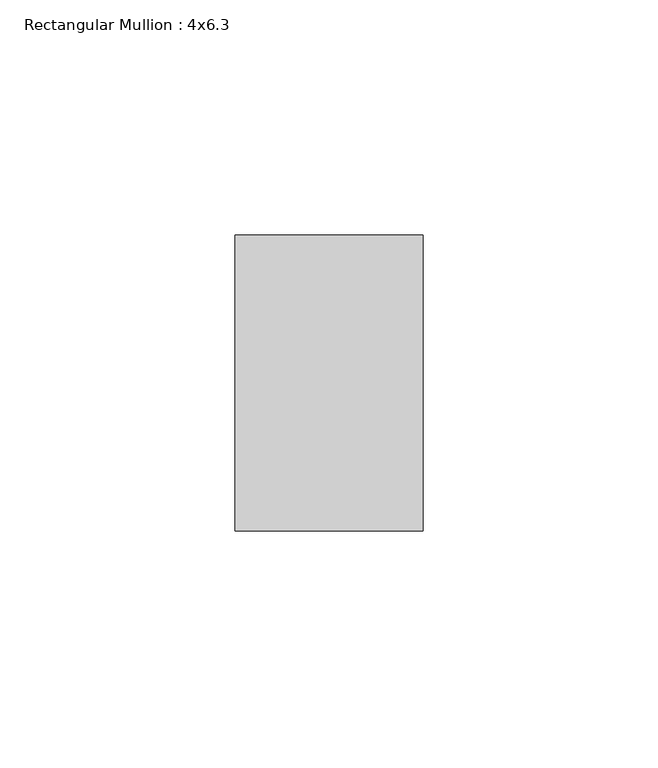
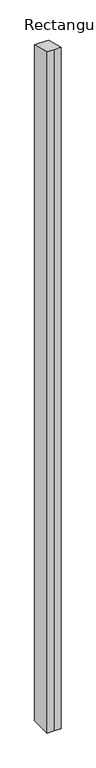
"""IFC4 building model written with IfcOpenShell, lengths in millimetres: member geometry, Rectangular Mullion : 4x6.3."""

from ifc_helpers import new_model, si_unit, origin, place, context, project, spatial, faceted_brep, source, transform, mapped, element, save


def rectangular_mullion_4x6_3_810ab911(model_context):
    return source(origin(), model_context, "Body", "Brep", [
        faceted_brep([(-20.0, 20.0, -2105.8369317), (-20.0, 83.0, -2105.8369317), (20.0, 83.0, -2105.8369317), (20.0, 20.0, -2105.8369317), (0.0, 20.0, -2105.8369317), (0.0, 20.0, -5.4283368), (-20.0, 20.0, -5.4283368), (20.0, 20.0, -5.4283368), (20.0, 83.0, -22.5275978), (-20.0, 83.0, -22.5275978)], [[[0, 1, 2, 3, 4]], [[5, 6, 0, 4]], [[7, 5, 4, 3]], [[8, 7, 3, 2]], [[9, 8, 2, 1]], [[6, 9, 1, 0]], [[6, 5, 7, 8, 9]]]),
    ])


if __name__ == "__main__":
    model = new_model("IFC4")
    model_context = context("Model", 3, world=origin())
    ifc_project = project(units=[si_unit("LENGTHUNIT", "METRE", prefix="MILLI")], contexts=[model_context])
    site = spatial("IfcSite", under=ifc_project)
    building = spatial("IfcBuilding", under=site)
    placement = place(None, origin())
    rectangular_mullion_4x6_3_shape = rectangular_mullion_4x6_3_810ab911(model_context)
    element("IfcMember", 1, ObjectType="Rectangular Mullion : 4x6.3", at=placement, inside=building, context=model_context, shape_type="MappedRepresentation", body=[
        mapped(rectangular_mullion_4x6_3_shape, transform((0.0, 0.0, 0.0), x_axis=(1.0, 0.0, 0.0), y_axis=(0.0, 1.0, 0.0), z_axis=(0.0, 0.0, 1.0))),
    ])
    save(model, "model.ifc")
